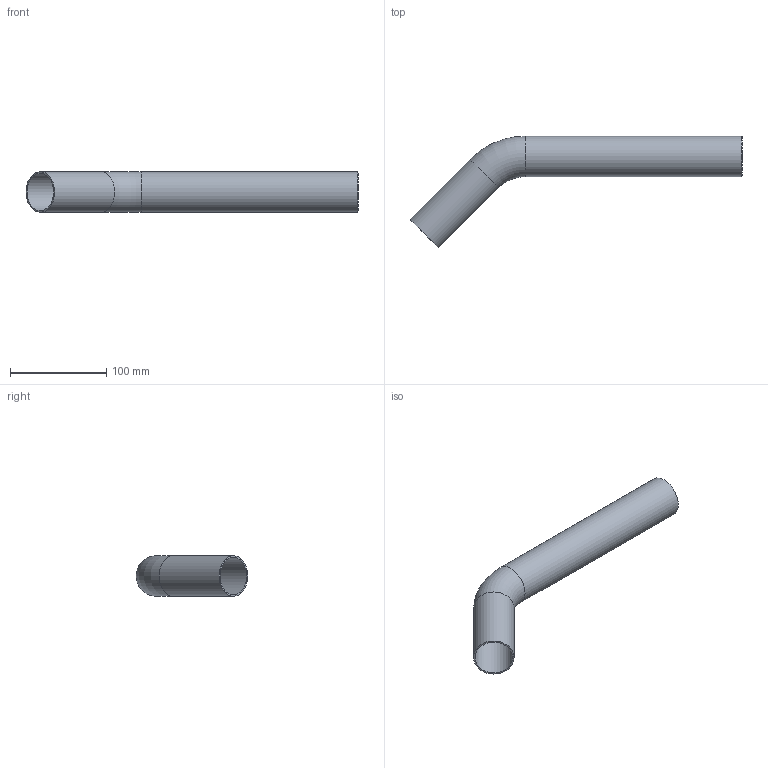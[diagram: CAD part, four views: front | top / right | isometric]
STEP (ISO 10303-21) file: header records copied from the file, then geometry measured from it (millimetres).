
FILE_DESCRIPTION((''),'2;1');
FILE_NAME('G:\Technics\CAD\Bauteile\042\6904242(1).stp','2008-03-03T13:39:25',('herberg'),(''),'Autodesk Inventor 2008','Autodesk Inventor 2008','');
FILE_SCHEMA(('AUTOMOTIVE_DESIGN { 1 0 10303 214 1 1 1 1 }'));
Length unit declared in the file: millimetre
Products named in the file (1): 6904242(1)
Bounding box: 344.75 x 115.75 x 42 mm (x, y, z)
Volume: 68786.5 mm3; surface area: 92097 mm2
Topology: 1 solids, 1 shells, 8 faces, 14 edges, 8 vertices
Faces by surface type: cylinder 4, torus 2, plane 2
Full cylindrical faces by diameter (mm): 39 x2, 42 x2
Entity records: 194 total; most frequent: DIRECTION 34, CARTESIAN_POINT 25, AXIS2_PLACEMENT_3D 17, ORIENTED_EDGE 16, EDGE_LOOP 16, VERTEX_POINT 8, CIRCLE 8, EDGE_CURVE 8
